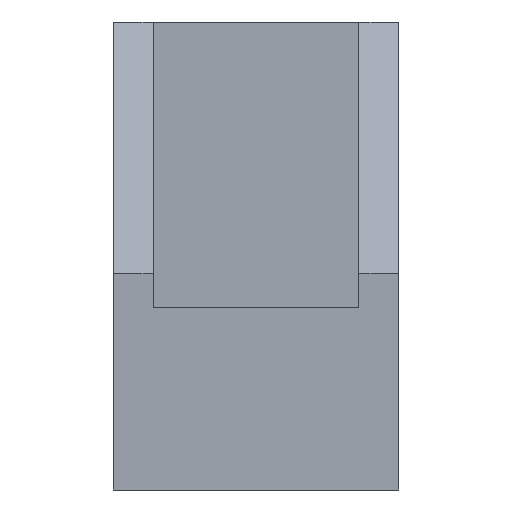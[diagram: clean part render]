
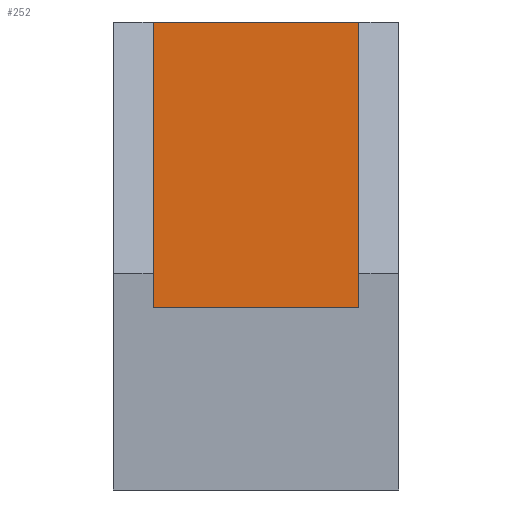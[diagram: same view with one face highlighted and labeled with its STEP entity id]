
A CAD part, left-side view. The second image highlights one B-rep face of the part: STEP entity #252.
In plain terms, the highlighted planar face has unit normal (-1, 0, 0).
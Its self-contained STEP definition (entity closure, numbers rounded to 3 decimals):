
#24 = CARTESIAN_POINT ( 'NONE',  ( -52., 9., -4.5 ) ) ;
#31 = EDGE_CURVE ( 'NONE', #601, #961, #679, .T. ) ;
#77 = FACE_OUTER_BOUND ( 'NONE', #501, .T. ) ;
#87 = DIRECTION ( 'NONE',  ( 0., 0., 1. ) ) ;
#122 = VERTEX_POINT ( 'NONE', #816 ) ;
#136 = ORIENTED_EDGE ( 'NONE', *, *, #887, .T. ) ;
#192 = CARTESIAN_POINT ( 'NONE',  ( -52., 9., -4.5 ) ) ;
#252 = ADVANCED_FACE ( 'NONE', ( #77 ), #799, .F. ) ;
#299 = LINE ( 'NONE', #192, #429 ) ;
#314 = ORIENTED_EDGE ( 'NONE', *, *, #329, .F. ) ;
#329 = EDGE_CURVE ( 'NONE', #961, #428, #299, .T. ) ;
#332 = ORIENTED_EDGE ( 'NONE', *, *, #31, .F. ) ;
#348 = VECTOR ( 'NONE', #749, 1000. ) ;
#373 = AXIS2_PLACEMENT_3D ( 'NONE', #700, #590, #482 ) ;
#404 = CARTESIAN_POINT ( 'NONE',  ( -52., -9., -4.5 ) ) ;
#428 = VERTEX_POINT ( 'NONE', #582 ) ;
#429 = VECTOR ( 'NONE', #87, 1000. ) ;
#452 = VECTOR ( 'NONE', #462, 1000. ) ;
#462 = DIRECTION ( 'NONE',  ( 0., 1., 0. ) ) ;
#482 = DIRECTION ( 'NONE',  ( 0., 0., -1. ) ) ;
#501 = EDGE_LOOP ( 'NONE', ( #136, #314, #332, #764 ) ) ;
#575 = CARTESIAN_POINT ( 'NONE',  ( -52., 9., -4.5 ) ) ;
#582 = CARTESIAN_POINT ( 'NONE',  ( -52., 9., 20.5 ) ) ;
#590 = DIRECTION ( 'NONE',  ( 1., 0., 0. ) ) ;
#601 = VERTEX_POINT ( 'NONE', #404 ) ;
#619 = DIRECTION ( 'NONE',  ( 0., 1., 0. ) ) ;
#679 = LINE ( 'NONE', #575, #452 ) ;
#700 = CARTESIAN_POINT ( 'NONE',  ( -52., 9., -4.5 ) ) ;
#721 = CARTESIAN_POINT ( 'NONE',  ( -52., 9., 20.5 ) ) ;
#749 = DIRECTION ( 'NONE',  ( 0., 0., 1. ) ) ;
#764 = ORIENTED_EDGE ( 'NONE', *, *, #967, .T. ) ;
#799 = PLANE ( 'NONE',  #373 ) ;
#816 = CARTESIAN_POINT ( 'NONE',  ( -52., -9., 20.5 ) ) ;
#823 = LINE ( 'NONE', #721, #1032 ) ;
#857 = CARTESIAN_POINT ( 'NONE',  ( -52., -9., -4.5 ) ) ;
#887 = EDGE_CURVE ( 'NONE', #122, #428, #823, .T. ) ;
#958 = LINE ( 'NONE', #857, #348 ) ;
#961 = VERTEX_POINT ( 'NONE', #24 ) ;
#967 = EDGE_CURVE ( 'NONE', #601, #122, #958, .T. ) ;
#1032 = VECTOR ( 'NONE', #619, 1000. ) ;
